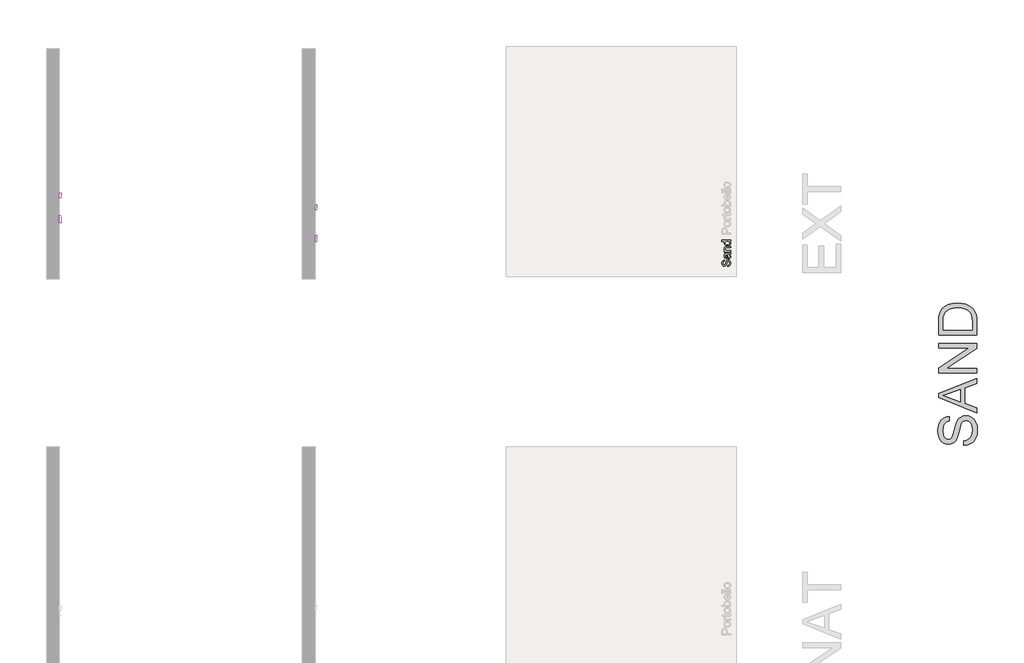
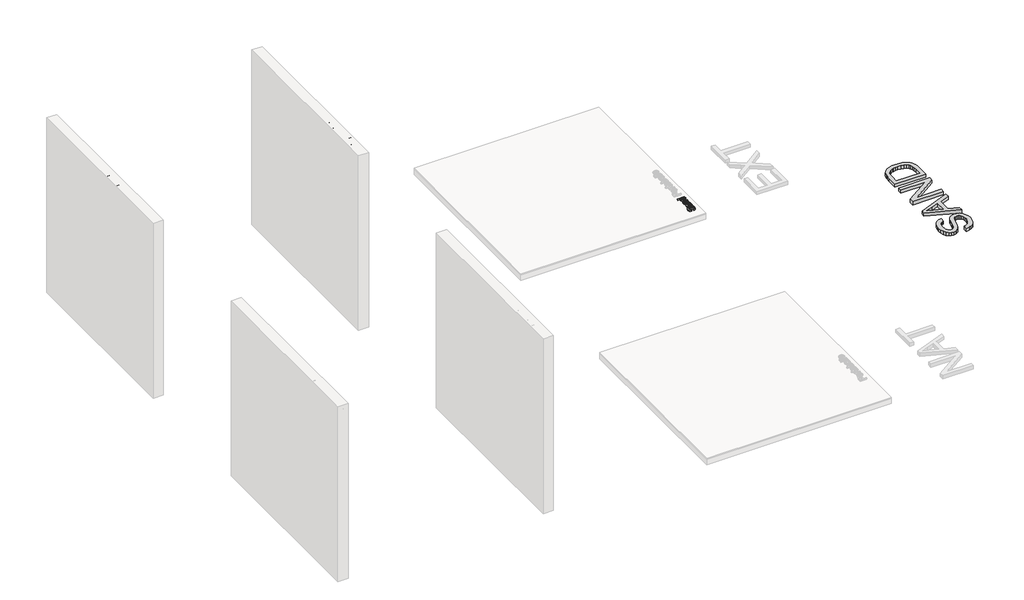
# One storey, part 3 of 12: 6 proxies.
"""IFC4 building model written with IfcOpenShell, lengths in millimetres."""

from ifc_helpers import new_model, si_unit, frame, origin, origin_with_axes, place, context, project, spatial, polyline, outline, extrude, element, save

model = new_model("IFC4")

# Units and contexts
model_context = context("Model", 3, world=origin())
ifc_project = project(units=[si_unit("LENGTHUNIT", "METRE", prefix="MILLI")], contexts=[model_context])

# Site, building, storey
site = spatial("IfcSite", under=ifc_project)
building = spatial("IfcBuilding", under=site)
storey = spatial("IfcBuildingStorey", under=building, Name="PORTOBELLO - SHOWROOM", Elevation=0.0)

# Proxies
placement = place(None, origin())
element("IfcBuildingElementProxy", 1, Name="10mm Arial", ObjectType="10mm Arial", at=placement, inside=storey, context=model_context, shape_type="SweptSolid", body=[
    extrude(outline(polyline([(-4066.8889241, 2526.0529442), (-4066.8889241, 2626.5092544), (-4029.6592661, 2626.5092544), (-4014.6496807, 2625.5527612), (-4002.4482612, 2620.8561344), (-3994.5387983, 2611.1440497), (-3991.5466914, 2597.4465768), (-3993.5669767, 2585.6069079), (-3999.6278326, 2575.7415391), (-4010.9616637, 2569.0828749), (-4028.8008748, 2566.8633202), (-4054.3318853, 2566.8633202), (-4054.3318853, 2526.0529442), (-4066.8889241, 2526.0529442)]), holes=[polyline([(-4054.3318853, 2579.420359), (-4028.0651108, 2579.420359), (-4009.5729092, 2584.0311467), (-4005.471025, 2589.5800334), (-4004.1037302, 2597.0051184), (-4007.328829, 2607.4039161), (-4015.8023777, 2613.0938243), (-4028.3594164, 2613.9522156), (-4054.3318853, 2613.9522156), (-4054.3318853, 2579.420359)])]), frame((37348.7766485, 0.0, 0.0), z_axis=(1.0, 0.0, 0.0), x_axis=(0.0, 1.0, 0.0)), (0.0, 0.0, 1.0), 20.0),
    extrude(outline(polyline([(37368.7766485, -3963.2933542), (37368.7766485, -3975.850393), (37348.7766485, -3975.850393), (37348.7766485, -3963.2933542), (37368.7766485, -3963.2933542)])), frame((0.0, 0.0, 2526.0529442), z_axis=(0.0, 0.0, 1.0), x_axis=(1.0, 0.0, 0.0)), (0.0, 0.0, 1.0), 100.4563101),
    extrude(outline(polyline([(-3897.3689007, 2535.4707233), (-3909.5457947, 2526.9603865), (-3922.998013, 2524.4833144), (-3933.4918469, 2525.9732365), (-3941.2326972, 2530.4430027), (-3946.0059661, 2537.2304255), (-3947.5970557, 2545.6733173), (-3945.19356, 2555.6061312), (-3938.8782525, 2562.8166183), (-3930.0858728, 2566.9368966), (-3919.2210912, 2568.8253576), (-3897.4424771, 2573.1418396), (-3897.3689007, 2575.9377428), (-3900.8269914, 2585.2083691), (-3914.7084054, 2588.8381381), (-3927.4125969, 2586.4223797), (-3933.4703871, 2577.8507292), (-3946.0274259, 2579.420359), (-3940.5950351, 2591.6830922), (-3929.6566771, 2598.8690538), (-3913.0897246, 2601.3951769), (-3897.8716727, 2599.1633594), (-3889.2754968, 2593.5592904), (-3885.4249986, 2585.0366908), (-3884.8118619, 2574.0492819), (-3884.8118619, 2558.4265598), (-3884.1741998, 2536.6111575), (-3881.6726022, 2526.0529442), (-3894.229641, 2526.0529442), (-3897.3689007, 2535.4707233)]), holes=[polyline([(-3897.3689007, 2560.5848009), (-3917.6269359, 2556.7343026), (-3928.4304038, 2554.6986889), (-3933.3232343, 2551.387751), (-3935.040017, 2546.5562341), (-3931.2998834, 2539.7626799), (-3920.3247372, 2537.0403532), (-3907.6205456, 2540.0447228), (-3899.4290398, 2547.3165236), (-3897.4424771, 2557.0286082), (-3897.3689007, 2560.5848009)])]), frame((37348.7766485, 0.0, 0.0), z_axis=(1.0, 0.0, 0.0), x_axis=(0.0, 1.0, 0.0)), (0.0, 0.0, 1.0), 20.0),
    extrude(outline(polyline([(-3840.8622262, 2536.5253184), (-3839.2925964, 2525.6850623), (-3848.68585, 2524.4833144), (-3859.207275, 2526.567979), (-3864.4557248, 2532.037158), (-3865.9763038, 2546.286454), (-3865.9763038, 2587.2685082), (-3875.3940828, 2587.2685082), (-3875.3940828, 2599.825547), (-3865.9763038, 2599.825547), (-3865.9763038, 2617.7536629), (-3853.419265, 2625.1358283), (-3853.419265, 2599.825547), (-3840.8622262, 2599.825547), (-3840.8622262, 2587.2685082), (-3853.419265, 2587.2685082), (-3853.419265, 2546.654336), (-3852.7570774, 2540.1796129), (-3850.6110991, 2537.8864818), (-3846.3314052, 2537.0403532), (-3840.8622262, 2536.5253184)])), frame((37348.7766485, 0.0, 0.0), z_axis=(1.0, 0.0, 0.0), x_axis=(0.0, 1.0, 0.0)), (0.0, 0.0, 1.0), 20.0),
    extrude(outline(polyline([(-3836.1533367, 2526.0529442), (-3836.1533367, 2537.874219), (-3792.8168376, 2587.2685082), (-3805.6436565, 2587.2685082), (-3833.014077, 2587.2685082), (-3833.014077, 2599.825547), (-3774.9377727, 2599.825547), (-3774.9377727, 2589.1569692), (-3813.3691784, 2545.3299608), (-3819.2552904, 2538.609983), (-3804.7362143, 2538.609983), (-3773.3681428, 2538.609983), (-3773.3681428, 2526.0529442), (-3836.1533367, 2526.0529442)])), frame((37348.7766485, 0.0, 0.0), z_axis=(1.0, 0.0, 0.0), x_axis=(0.0, 1.0, 0.0)), (0.0, 0.0, 1.0), 20.0),
    extrude(outline(polyline([(-3724.7096176, 2560.5848009), (-3712.1525788, 2560.5848009), (-3708.1058769, 2548.0154994), (-3698.222114, 2540.0692483), (-3683.1634776, 2537.0403532), (-3670.0423531, 2539.3334843), (-3661.5688045, 2545.6365291), (-3658.7851641, 2554.0610268), (-3660.8698287, 2561.8969133), (-3669.404691, 2567.5990842), (-3687.6884262, 2572.3938129), (-3707.3701129, 2578.5864932), (-3718.0509535, 2587.9306958), (-3721.5703579, 2600.4141582), (-3717.2170876, 2614.626666), (-3704.5006333, 2624.6575817), (-3685.8858044, 2628.0788842), (-3666.0201766, 2624.4981662), (-3652.7764248, 2613.9767411), (-3647.7977551, 2598.2559172), (-3660.3547939, 2598.2559172), (-3662.6601878, 2605.7484471), (-3667.4671792, 2611.1563125), (-3685.3952951, 2615.5218455), (-3703.3724619, 2611.2053634), (-3709.0133191, 2600.7820402), (-3705.0156681, 2592.0754996), (-3684.5123783, 2585.0612163), (-3662.2923058, 2578.7581714), (-3650.1399372, 2568.5801029), (-3646.2281253, 2554.3798579), (-3650.7285484, 2539.3580097), (-3663.6779946, 2528.3951263), (-3682.6729683, 2524.4833144), (-3705.1015073, 2528.7016946), (-3719.2894895, 2541.4058862), (-3724.7096176, 2560.5848009)])), frame((37348.7766485, 0.0, 0.0), z_axis=(1.0, 0.0, 0.0), x_axis=(0.0, 1.0, 0.0)), (0.0, 0.0, 1.0), 20.0),
    extrude(outline(polyline([(-3581.8733016, 2535.4707233), (-3594.0501957, 2526.9603865), (-3607.5024139, 2524.4833144), (-3617.9962479, 2525.9732365), (-3625.7370982, 2530.4430027), (-3630.5103671, 2537.2304255), (-3632.1014567, 2545.6733173), (-3629.697961, 2555.6061312), (-3623.3826534, 2562.8166183), (-3614.5902737, 2566.9368966), (-3603.7254921, 2568.8253576), (-3581.946878, 2573.1418396), (-3581.8733016, 2575.9377428), (-3585.3313924, 2585.2083691), (-3599.2128063, 2588.8381381), (-3611.9169979, 2586.4223797), (-3617.9747881, 2577.8507292), (-3630.5318268, 2579.420359), (-3625.099436, 2591.6830922), (-3614.1610781, 2598.8690538), (-3597.5941255, 2601.3951769), (-3582.3760737, 2599.1633594), (-3573.7798977, 2593.5592904), (-3569.9293995, 2585.0366908), (-3569.3162628, 2574.0492819), (-3569.3162628, 2558.4265598), (-3568.6786007, 2536.6111575), (-3566.1770031, 2526.0529442), (-3578.7340419, 2526.0529442), (-3581.8733016, 2535.4707233)]), holes=[polyline([(-3581.8733016, 2560.5848009), (-3602.1313368, 2556.7343026), (-3612.9348047, 2554.6986889), (-3617.8276353, 2551.387751), (-3619.5444179, 2546.5562341), (-3615.8042843, 2539.7626799), (-3604.8291381, 2537.0403532), (-3592.1249465, 2540.0447228), (-3583.9334408, 2547.3165236), (-3581.946878, 2557.0286082), (-3581.8733016, 2560.5848009)])]), frame((37348.7766485, 0.0, 0.0), z_axis=(1.0, 0.0, 0.0), x_axis=(0.0, 1.0, 0.0)), (0.0, 0.0, 1.0), 20.0),
    extrude(outline(polyline([(-3552.0503345, 2526.0529442), (-3552.0503345, 2599.825547), (-3539.4932958, 2599.825547), (-3539.4932958, 2589.5248511), (-3529.8915757, 2598.4275954), (-3516.7827139, 2601.3951769), (-3504.924651, 2599.0039439), (-3496.8312471, 2592.7254245), (-3493.066588, 2583.4915864), (-3492.4044004, 2571.3514806), (-3492.4044004, 2526.0529442), (-3504.9614392, 2526.0529442), (-3504.9614392, 2569.6592234), (-3506.4084417, 2580.7692597), (-3511.5220014, 2586.6431089), (-3520.1427028, 2588.8381381), (-3533.7665994, 2583.9085194), (-3538.0616217, 2576.7654773), (-3539.4932958, 2565.1955885), (-3539.4932958, 2526.0529442), (-3552.0503345, 2526.0529442)])), frame((37348.7766485, 0.0, 0.0), z_axis=(1.0, 0.0, 0.0), x_axis=(0.0, 1.0, 0.0)), (0.0, 0.0, 1.0), 20.0),
    extrude(outline(polyline([(-3429.6192065, 2526.0529442), (-3429.6192065, 2537.8987445), (-3437.9272083, 2527.8371719), (-3449.4112579, 2524.4833144), (-3464.9604035, 2529.3393567), (-3475.9478125, 2542.8896769), (-3479.8473616, 2562.8656692), (-3476.2543808, 2582.8539243), (-3465.4877011, 2596.6127109), (-3449.4603088, 2601.3951769), (-3437.8842887, 2597.9738743), (-3429.6192065, 2589.0833928), (-3429.6192065, 2626.5092544), (-3417.0621678, 2626.5092544), (-3417.0621678, 2526.0529442), (-3429.6192065, 2526.0529442)]), holes=[polyline([(-3467.2903228, 2562.9147202), (-3465.8739772, 2551.5563636), (-3461.6249401, 2543.4782881), (-3455.450654, 2538.6498369), (-3448.258561, 2537.0403532), (-3441.0695336, 2538.5762605), (-3435.0515973, 2543.1839825), (-3430.9773042, 2550.9493583), (-3429.6192065, 2561.958227), (-3431.0018297, 2573.9940996), (-3435.1496992, 2582.3388895), (-3441.3209197, 2587.2133259), (-3448.7735958, 2588.8381381), (-3456.0392652, 2587.2777053), (-3461.9928221, 2582.5964069), (-3465.9659477, 2574.5551196), (-3467.2903228, 2562.9147202)])]), frame((37348.7766485, 0.0, 0.0), z_axis=(1.0, 0.0, 0.0), x_axis=(0.0, 1.0, 0.0)), (0.0, 0.0, 1.0), 20.0),
])
element("IfcBuildingElementProxy", 2, Name="10mm Arial", ObjectType="10mm Arial", at=placement, inside=storey, context=model_context, shape_type="SweptSolid", body=[
    extrude(outline(polyline([(42185.4198665, -4014.1840479), (42185.4198665, -4001.6270091), (42197.989168, -3997.5803071), (42205.9354191, -3987.6965442), (42208.9643142, -3972.6379079), (42206.6711831, -3959.5167834), (42200.3681382, -3951.0432347), (42191.9436405, -3948.2595943), (42184.107754, -3950.344259), (42178.4055831, -3958.8791212), (42173.6108545, -3977.1628564), (42167.4181742, -3996.8445431), (42158.0739715, -4007.5253837), (42145.5905092, -4011.0447882), (42131.3780014, -4006.6915179), (42121.3470857, -3993.9750636), (42117.9257831, -3975.3602346), (42121.5065012, -3955.4946069), (42132.0279263, -3942.2508551), (42147.7487502, -3937.2721854), (42147.7487502, -3949.8292242), (42140.2562202, -3952.134618), (42134.8483549, -3956.9416094), (42130.4828219, -3974.8697253), (42134.799304, -3992.8468921), (42145.2226272, -3998.4877494), (42153.9291677, -3994.4900984), (42160.9434511, -3973.9868085), (42167.2464959, -3951.766736), (42177.4245645, -3939.6143674), (42191.6248095, -3935.7025555), (42206.6466576, -3940.2029786), (42217.6095411, -3953.1524249), (42221.521353, -3972.1473985), (42217.3029727, -3994.5759375), (42204.5987812, -4008.7639198), (42185.4198665, -4014.1840479)])), frame((0.0, 0.0, 17.0), z_axis=(0.0, 0.0, 1.0), x_axis=(1.0, 0.0, 0.0)), (0.0, 0.0, 1.0), 20.0),
    extrude(outline(polyline([(42210.533944, -3871.3477319), (42219.0442809, -3883.5246259), (42221.521353, -3896.9768442), (42220.0314309, -3907.4706781), (42215.5616646, -3915.2115284), (42208.7742418, -3919.9847973), (42200.33135, -3921.5758869), (42190.3985362, -3919.1723912), (42183.1880491, -3912.8570836), (42179.0677707, -3904.064704), (42177.1793098, -3893.1999224), (42172.8628277, -3871.4213083), (42170.0669246, -3871.3477319), (42160.7962983, -3874.8058226), (42157.1665293, -3888.6872366), (42159.5822877, -3901.3914281), (42168.1539382, -3907.4492183), (42166.5843083, -3920.0062571), (42154.3215752, -3914.5738663), (42147.1356135, -3903.6355083), (42144.6094905, -3887.0685558), (42146.8413079, -3871.8505039), (42152.445377, -3863.254328), (42160.9679765, -3859.4038297), (42171.9553855, -3858.7906931), (42187.5781075, -3858.7906931), (42209.3935098, -3858.153031), (42219.9517231, -3855.6514334), (42219.9517231, -3868.2084722), (42210.533944, -3871.3477319)]), holes=[polyline([(42185.4198665, -3871.3477319), (42189.2703647, -3891.6057671), (42191.3059784, -3902.409235), (42194.6169164, -3907.3020655), (42199.4484332, -3909.0188482), (42206.2419874, -3905.2787145), (42208.9643142, -3894.3035684), (42205.9599446, -3881.5993768), (42198.6881438, -3873.407871), (42188.9760591, -3871.4213083), (42185.4198665, -3871.3477319)])]), frame((0.0, 0.0, 17.0), z_axis=(0.0, 0.0, 1.0), x_axis=(1.0, 0.0, 0.0)), (0.0, 0.0, 1.0), 20.0),
    extrude(outline(polyline([(42219.9517231, -3841.5247648), (42146.1791203, -3841.5247648), (42146.1791203, -3828.967726), (42156.4798162, -3828.967726), (42147.5770719, -3819.3660059), (42144.6094905, -3806.2571442), (42147.0007235, -3794.3990812), (42153.2792429, -3786.3056773), (42162.5130809, -3782.5410182), (42174.6531868, -3781.8788306), (42219.9517231, -3781.8788306), (42219.9517231, -3794.4358694), (42176.3454439, -3794.4358694), (42165.2354077, -3795.8828719), (42159.3615585, -3800.9964316), (42157.1665293, -3809.6171331), (42162.096148, -3823.2410296), (42169.2391901, -3827.5360519), (42180.8090788, -3828.967726), (42219.9517231, -3828.967726), (42219.9517231, -3841.5247648)])), frame((0.0, 0.0, 17.0), z_axis=(0.0, 0.0, 1.0), x_axis=(1.0, 0.0, 0.0)), (0.0, 0.0, 1.0), 20.0),
    extrude(outline(polyline([(42219.9517231, -3719.0936368), (42208.1059229, -3719.0936368), (42218.1674954, -3727.4016385), (42221.521353, -3738.8856881), (42216.6653106, -3754.4348338), (42203.1149905, -3765.4222427), (42183.1389981, -3769.3217919), (42163.1507431, -3765.728811), (42149.3919564, -3754.9621313), (42144.6094905, -3738.9347391), (42148.0307931, -3727.3587189), (42156.9212746, -3719.0936368), (42119.495413, -3719.0936368), (42119.495413, -3706.536598), (42219.9517231, -3706.536598), (42219.9517231, -3719.0936368)]), holes=[polyline([(42183.0899472, -3756.7647531), (42194.4483038, -3755.3484074), (42202.5263793, -3751.0993704), (42207.3548305, -3744.9250842), (42208.9643142, -3737.7329912), (42207.4284069, -3730.5439639), (42202.8206849, -3724.5260276), (42195.0553091, -3720.4517345), (42184.0464404, -3719.0936368), (42172.0105678, -3720.47626), (42163.6657778, -3724.6241294), (42158.7913414, -3730.7953499), (42157.1665293, -3738.248026), (42158.7269621, -3745.5136954), (42163.4082605, -3751.4672524), (42171.4495477, -3755.4403779), (42183.0899472, -3756.7647531)])]), frame((0.0, 0.0, 17.0), z_axis=(0.0, 0.0, 1.0), x_axis=(1.0, 0.0, 0.0)), (0.0, 0.0, 1.0), 20.0),
])
element("IfcBuildingElementProxy", 3, Name="10mm Arial", ObjectType="10mm Arial", at=placement, inside=storey, context=model_context, shape_type="SweptSolid", body=[
    extrude(outline(polyline([(-4065.8034721, 2556.3927199), (-4053.2464333, 2556.3927199), (-4049.1997314, 2543.8234184), (-4039.3159684, 2535.8771673), (-4024.2573321, 2532.8482722), (-4011.1362076, 2535.1414033), (-4002.662659, 2541.4444482), (-3999.8790185, 2549.8689459), (-4001.9636832, 2557.7048324), (-4010.4985455, 2563.4070033), (-4028.7822806, 2568.201732), (-4048.4639674, 2574.3944122), (-4059.144808, 2583.7386149), (-4062.6642124, 2596.2220773), (-4058.3109421, 2610.434585), (-4045.5944878, 2620.4655007), (-4026.9796588, 2623.8868033), (-4007.1140311, 2620.3060852), (-3993.8702793, 2609.7846602), (-3988.8916096, 2594.0638362), (-4001.4486484, 2594.0638362), (-4003.7540422, 2601.5563662), (-4008.5610336, 2606.9642315), (-4026.4891495, 2611.3297645), (-4044.4663164, 2607.0132825), (-4050.1071736, 2596.5899593), (-4046.1095226, 2587.8834187), (-4025.6062327, 2580.8691353), (-4003.3861602, 2574.5660905), (-3991.2337916, 2564.388022), (-3987.3219798, 2550.1877769), (-3991.8224028, 2535.1659288), (-4004.7718491, 2524.2030453), (-4023.7668228, 2520.2912335), (-4046.1953617, 2524.5096137), (-4060.383344, 2537.2138052), (-4065.8034721, 2556.3927199)])), frame((34348.7766485, 0.0, 0.0), z_axis=(1.0, 0.0, 0.0), x_axis=(0.0, 1.0, 0.0)), (0.0, 0.0, 1.0), 20.0),
    extrude(outline(polyline([(-3922.9671561, 2531.2786424), (-3935.1440501, 2522.7683056), (-3948.5962684, 2520.2912335), (-3959.0901023, 2521.7811555), (-3966.8309526, 2526.2509218), (-3971.6042215, 2533.0383446), (-3973.1953112, 2541.4812364), (-3970.7918155, 2551.4140503), (-3964.4765079, 2558.6245374), (-3955.6841282, 2562.7448157), (-3944.8193466, 2564.6332766), (-3923.0407325, 2568.9497587), (-3922.9671561, 2571.7456619), (-3926.4252468, 2581.0162881), (-3940.3066608, 2584.6460572), (-3953.0108524, 2582.2302987), (-3959.0686425, 2573.6586482), (-3971.6256813, 2575.2282781), (-3966.1932905, 2587.4910112), (-3955.2549325, 2594.6769729), (-3938.68798, 2597.2030959), (-3923.4699281, 2594.9712785), (-3914.8737522, 2589.3672094), (-3911.023254, 2580.8446099), (-3910.4101173, 2569.8572009), (-3910.4101173, 2554.2344789), (-3909.7724552, 2532.4190766), (-3907.2708576, 2521.8608633), (-3919.8278964, 2521.8608633), (-3922.9671561, 2531.2786424)]), holes=[polyline([(-3922.9671561, 2556.3927199), (-3943.2251913, 2552.5422217), (-3954.0286592, 2550.506608), (-3958.9214897, 2547.19567), (-3960.6382724, 2542.3641532), (-3956.8981388, 2535.570599), (-3945.9229926, 2532.8482722), (-3933.218801, 2535.8526419), (-3925.0272953, 2543.1244426), (-3923.0407325, 2552.8365273), (-3922.9671561, 2556.3927199)])]), frame((34348.7766485, 0.0, 0.0), z_axis=(1.0, 0.0, 0.0), x_axis=(0.0, 1.0, 0.0)), (0.0, 0.0, 1.0), 20.0),
    extrude(outline(polyline([(-3893.144189, 2521.8608633), (-3893.144189, 2595.6334661), (-3880.5871502, 2595.6334661), (-3880.5871502, 2585.3327702), (-3870.9854302, 2594.2355145), (-3857.8765684, 2597.2030959), (-3846.0185054, 2594.811863), (-3837.9251015, 2588.5333436), (-3834.1604424, 2579.2995055), (-3833.4982549, 2567.1593996), (-3833.4982549, 2521.8608633), (-3846.0552936, 2521.8608633), (-3846.0552936, 2565.4671425), (-3847.5022961, 2576.5771787), (-3852.6158559, 2582.4510279), (-3861.2365573, 2584.6460572), (-3874.8604538, 2579.7164384), (-3879.1554761, 2572.5733963), (-3880.5871502, 2561.0035076), (-3880.5871502, 2521.8608633), (-3893.144189, 2521.8608633)])), frame((34348.7766485, 0.0, 0.0), z_axis=(1.0, 0.0, 0.0), x_axis=(0.0, 1.0, 0.0)), (0.0, 0.0, 1.0), 20.0),
    extrude(outline(polyline([(-3770.713061, 2521.8608633), (-3770.713061, 2533.7066636), (-3779.0210627, 2523.645091), (-3790.5051123, 2520.2912335), (-3806.054258, 2525.1472758), (-3817.0416669, 2538.697596), (-3820.9412161, 2558.6735883), (-3817.3482353, 2578.6618434), (-3806.5815555, 2592.42063), (-3790.5541633, 2597.2030959), (-3778.9781432, 2593.7817934), (-3770.713061, 2584.8913118), (-3770.713061, 2622.3171735), (-3758.1560222, 2622.3171735), (-3758.1560222, 2521.8608633), (-3770.713061, 2521.8608633)]), holes=[polyline([(-3808.3841773, 2558.7226392), (-3806.9678316, 2547.3642826), (-3802.7187946, 2539.2862071), (-3796.5445084, 2534.457756), (-3789.3524154, 2532.8482722), (-3782.1633881, 2534.3841796), (-3776.1454518, 2538.9919015), (-3772.0711587, 2546.7572773), (-3770.713061, 2557.766146), (-3772.0956842, 2569.8020186), (-3776.2435537, 2578.1468086), (-3782.4147741, 2583.021245), (-3789.8674502, 2584.6460572), (-3797.1331196, 2583.0856244), (-3803.0866766, 2578.404326), (-3807.0598021, 2570.3630387), (-3808.3841773, 2558.7226392)])]), frame((34348.7766485, 0.0, 0.0), z_axis=(1.0, 0.0, 0.0), x_axis=(0.0, 1.0, 0.0)), (0.0, 0.0, 1.0), 20.0),
    extrude(outline(polyline([(-3698.5100881, 2521.8608633), (-3698.5100881, 2622.3171735), (-3631.0160047, 2622.3171735), (-3631.0160047, 2609.7601347), (-3685.9530493, 2609.7601347), (-3685.9530493, 2579.9371676), (-3638.8641539, 2579.9371676), (-3638.8641539, 2567.3801288), (-3685.9530493, 2567.3801288), (-3685.9530493, 2521.8608633), (-3698.5100881, 2521.8608633)])), frame((34348.7766485, 0.0, 0.0), z_axis=(1.0, 0.0, 0.0), x_axis=(0.0, 1.0, 0.0)), (0.0, 0.0, 1.0), 20.0),
    extrude(outline(polyline([(34368.7766485, -3602.7626675), (34368.7766485, -3615.3197062), (34348.7766485, -3615.3197062), (34348.7766485, -3602.7626675), (34368.7766485, -3602.7626675)])), frame((0.0, 0.0, 2521.8608633), z_axis=(0.0, 0.0, 1.0), x_axis=(1.0, 0.0, 0.0)), (0.0, 0.0, 1.0), 100.4563101),
    extrude(outline(polyline([(-3536.8382139, 2531.2786424), (-3549.015108, 2522.7683056), (-3562.4673263, 2520.2912335), (-3572.9611602, 2521.7811555), (-3580.7020105, 2526.2509218), (-3585.4752794, 2533.0383446), (-3587.066369, 2541.4812364), (-3584.6628733, 2551.4140503), (-3578.3475657, 2558.6245374), (-3569.555186, 2562.7448157), (-3558.6904045, 2564.6332766), (-3536.9117903, 2568.9497587), (-3536.8382139, 2571.7456619), (-3540.2963047, 2581.0162881), (-3554.1777186, 2584.6460572), (-3566.8819102, 2582.2302987), (-3572.9397004, 2573.6586482), (-3585.4967392, 2575.2282781), (-3580.0643484, 2587.4910112), (-3569.1259904, 2594.6769729), (-3552.5590379, 2597.2030959), (-3537.340986, 2594.9712785), (-3528.74481, 2589.3672094), (-3524.8943118, 2580.8446099), (-3524.2811752, 2569.8572009), (-3524.2811752, 2554.2344789), (-3523.643513, 2532.4190766), (-3521.1419155, 2521.8608633), (-3533.6989542, 2521.8608633), (-3536.8382139, 2531.2786424)]), holes=[polyline([(-3536.8382139, 2556.3927199), (-3557.0962491, 2552.5422217), (-3567.8997171, 2550.506608), (-3572.7925476, 2547.19567), (-3574.5093302, 2542.3641532), (-3570.7691966, 2535.570599), (-3559.7940504, 2532.8482722), (-3547.0898589, 2535.8526419), (-3538.8983531, 2543.1244426), (-3536.9117903, 2552.8365273), (-3536.8382139, 2556.3927199)])]), frame((34348.7766485, 0.0, 0.0), z_axis=(1.0, 0.0, 0.0), x_axis=(0.0, 1.0, 0.0)), (0.0, 0.0, 1.0), 20.0),
    extrude(outline(polyline([(-3507.0152469, 2521.8608633), (-3507.0152469, 2595.6334661), (-3494.4582081, 2595.6334661), (-3494.4582081, 2583.4933602), (-3485.8252439, 2593.4384368), (-3473.5379853, 2597.2030959), (-3460.9564211, 2593.3648604), (-3454.0402396, 2582.6104434), (-3444.2423158, 2593.5549328), (-3431.869218, 2597.2030959), (-3422.4299791, 2595.6855827), (-3415.4494183, 2591.133043), (-3411.1360019, 2583.4228495), (-3409.6981964, 2572.4323749), (-3409.6981964, 2521.8608633), (-3422.2552352, 2521.8608633), (-3422.2552352, 2567.0367723), (-3423.4201948, 2577.5214092), (-3427.638575, 2582.6840198), (-3434.8122739, 2584.6460572), (-3447.1608462, 2579.6183366), (-3450.8488633, 2573.0761684), (-3452.0782023, 2563.5051052), (-3452.0782023, 2521.8608633), (-3464.635241, 2521.8608633), (-3464.635241, 2568.4347239), (-3467.5415088, 2580.5993552), (-3477.0696525, 2584.6460572), (-3486.3648042, 2581.9482559), (-3492.5452217, 2574.0510557), (-3494.4582081, 2559.0659958), (-3494.4582081, 2521.8608633), (-3507.0152469, 2521.8608633)])), frame((34348.7766485, 0.0, 0.0), z_axis=(1.0, 0.0, 0.0), x_axis=(0.0, 1.0, 0.0)), (0.0, 0.0, 1.0), 20.0),
    extrude(outline(polyline([(-3339.2120061, 2543.8356812), (-3326.900222, 2542.2660513), (-3331.3362658, 2532.9892937), (-3338.4149285, 2526.0547181), (-3347.9767947, 2521.7321046), (-3359.8624488, 2520.2912335), (-3374.5961227, 2522.7775026), (-3385.9330195, 2530.2363101), (-3393.1619007, 2542.1832779), (-3395.5715278, 2558.134028), (-3393.1373753, 2574.6212728), (-3385.8349177, 2586.951451), (-3374.651305, 2594.6401847), (-3360.5736873, 2597.2030959), (-3346.9344623, 2594.6463161), (-3336.0359582, 2586.9759765), (-3328.8898505, 2574.6703237), (-3326.5078146, 2558.2076044), (-3326.581391, 2554.8230901), (-3383.014489, 2554.8230901), (-3380.8409196, 2545.4237051), (-3375.7917392, 2538.513655), (-3368.50461, 2534.2646179), (-3359.6171941, 2532.8482722), (-3347.30541, 2535.4724971), (-3339.2120061, 2543.8356812)]), holes=[polyline([(-3383.014489, 2567.3801288), (-3339.0648533, 2567.3801288), (-3344.0925739, 2578.7599452), (-3351.4134256, 2583.1745292), (-3360.6227383, 2584.6460572), (-3376.0860448, 2579.9494303), (-3380.9512842, 2574.4587916), (-3383.014489, 2567.3801288)])]), frame((34348.7766485, 0.0, 0.0), z_axis=(1.0, 0.0, 0.0), x_axis=(0.0, 1.0, 0.0)), (0.0, 0.0, 1.0), 20.0),
    extrude(outline(polyline([(-3318.6596653, 2543.8356812), (-3306.1026266, 2545.405311), (-3300.290091, 2536.0856338), (-3286.9727628, 2532.8482722), (-3274.1704694, 2535.8158537), (-3270.0011401, 2542.7810861), (-3274.1949949, 2548.4219434), (-3287.1199156, 2552.0026614), (-3306.0290502, 2558.1462908), (-3314.2818696, 2565.3199897), (-3317.0900355, 2575.4490073), (-3314.8336926, 2584.8054727), (-3308.6778005, 2591.9546461), (-3300.6947612, 2595.6702543), (-3289.8912933, 2597.2030959), (-3274.6119278, 2594.7382866), (-3264.8998431, 2588.0673597), (-3260.583361, 2576.7979079), (-3273.1403998, 2575.2282781), (-3277.8615521, 2582.1567223), (-3288.9102747, 2584.6460572), (-3300.9277532, 2582.2670869), (-3304.5329967, 2576.7243315), (-3303.0369433, 2573.070037), (-3298.3525792, 2570.2986593), (-3287.5368485, 2567.6253835), (-3269.1059606, 2561.7147461), (-3260.5465728, 2555.0192938), (-3257.4441013, 2544.1054613), (-3261.0861331, 2532.0879828), (-3271.5952954, 2523.3691795), (-3287.1444411, 2520.2912335), (-3299.8057131, 2521.7750242), (-3309.0456825, 2526.2263963), (-3315.2138373, 2533.596299), (-3318.6596653, 2543.8356812)])), frame((34348.7766485, 0.0, 0.0), z_axis=(1.0, 0.0, 0.0), x_axis=(0.0, 1.0, 0.0)), (0.0, 0.0, 1.0), 20.0),
])
element("IfcBuildingElementProxy", 4, Name="10mm Arial Narrow", ObjectType="10mm Arial Narrow", at=placement, inside=storey, context=model_context, shape_type="SweptSolid", body=[
    extrude(outline(polyline([(-3349.7538649, 2526.0529442), (-3349.7538649, 2626.771548), (-3318.4569802, 2626.771548), (-3302.1612787, 2624.8932273), (-3290.6882926, 2615.4127841), (-3286.3986142, 2598.3936753), (-3288.1849226, 2586.3178497), (-3293.5438478, 2576.691456), (-3303.2876366, 2570.3901975), (-3318.2285358, 2568.2897781), (-3340.0069033, 2568.2897781), (-3340.0069033, 2526.0529442), (-3349.7538649, 2526.0529442)]), holes=[polyline([(-3340.0069033, 2579.6612333), (-3317.0355483, 2579.6612333), (-3301.1713529, 2584.1920475), (-3296.1455758, 2597.8606383), (-3298.6203903, 2608.0264147), (-3304.5980191, 2613.8263646), (-3317.2639928, 2615.4000927), (-3340.0069033, 2615.4000927), (-3340.0069033, 2579.6612333)])]), frame((37348.7766485, 0.0, 0.0), z_axis=(1.0, 0.0, 0.0), x_axis=(0.0, 1.0, 0.0)), (0.0, 0.0, 1.0), 20.0),
    extrude(outline(polyline([(-3278.2761461, 2562.6040504), (-3276.3216773, 2579.194826), (-3270.4582706, 2591.1469108), (-3261.5997039, 2598.3714654), (-3250.6597548, 2600.7796503), (-3239.8467192, 2598.3714654), (-3230.9627698, 2591.1469108), (-3225.023215, 2579.3851963), (-3223.0433634, 2563.3655318), (-3224.9883138, 2546.2036452), (-3230.8231649, 2534.0611901), (-3239.6722131, 2526.8366355), (-3250.6597548, 2524.4284506), (-3261.520383, 2526.8429812), (-3270.3948139, 2534.0865728), (-3276.3058131, 2546.0450033), (-3278.2761461, 2562.6040504)]), holes=[polyline([(-3268.5291845, 2562.6294332), (-3267.2251476, 2550.0776818), (-3263.313037, 2541.2064237), (-3257.4718403, 2535.9331651), (-3250.3805449, 2534.1754123), (-3243.6604718, 2535.9490293), (-3237.9683985, 2541.2698805), (-3234.0848434, 2550.1570027), (-3232.7903251, 2562.6294332), (-3234.0943619, 2575.1431105), (-3238.0064725, 2584.0016772), (-3243.8476693, 2589.2749358), (-3250.9389646, 2591.0326886), (-3257.7066304, 2589.2654172), (-3263.3891852, 2583.9636031), (-3267.2441847, 2575.0955179), (-3268.5291845, 2562.6294332)])]), frame((37348.7766485, 0.0, 0.0), z_axis=(1.0, 0.0, 0.0), x_axis=(0.0, 1.0, 0.0)), (0.0, 0.0, 1.0), 20.0),
    extrude(outline(polyline([(-3151.5656446, 2534.1754123), (-3149.941151, 2524.4284506), (-3157.3021377, 2524.4284506), (-3165.576902, 2526.5479071), (-3169.8919632, 2532.347857), (-3171.0595679, 2546.9936822), (-3171.0595679, 2589.408195), (-3179.182036, 2589.408195), (-3179.182036, 2592.6571822), (-3180.8065296, 2587.7837014), (-3188.370578, 2589.408195), (-3194.4497376, 2587.0856768), (-3198.3206013, 2580.6003937), (-3200.3004529, 2565.1930871), (-3200.3004529, 2526.0529442), (-3210.0474146, 2526.0529442), (-3210.0474146, 2599.1551566), (-3200.3004529, 2599.1551566), (-3200.3004529, 2589.4589604), (-3194.0563056, 2598.5459715), (-3187.659862, 2600.7796503), (-3179.182036, 2599.1551566), (-3171.0595679, 2599.1551566), (-3171.0595679, 2615.4000927), (-3161.3126063, 2623.5225608), (-3161.3126063, 2599.1551566), (-3151.5656446, 2599.1551566), (-3151.5656446, 2589.408195), (-3161.3126063, 2589.408195), (-3161.3126063, 2544.7600035), (-3160.4495941, 2536.764449), (-3155.8299404, 2534.1754123), (-3151.5656446, 2534.1754123)])), frame((37348.7766485, 0.0, 0.0), z_axis=(1.0, 0.0, 0.0), x_axis=(0.0, 1.0, 0.0)), (0.0, 0.0, 1.0), 20.0),
    extrude(outline(polyline([(-3145.0676702, 2562.6040504), (-3143.1132013, 2579.194826), (-3137.2497947, 2591.1469108), (-3128.391228, 2598.3714654), (-3117.4512789, 2600.7796503), (-3106.6382433, 2598.3714654), (-3097.7542938, 2591.1469108), (-3091.8147391, 2579.3851963), (-3089.8348875, 2563.3655318), (-3091.7798379, 2546.2036452), (-3097.6146889, 2534.0611901), (-3106.4637371, 2526.8366355), (-3117.4512789, 2524.4284506), (-3128.311907, 2526.8429812), (-3137.1863379, 2534.0865728), (-3143.0973371, 2546.0450033), (-3145.0676702, 2562.6040504)]), holes=[polyline([(-3135.3207086, 2562.6294332), (-3134.0166717, 2550.0776818), (-3130.1045611, 2541.2064237), (-3124.2633644, 2535.9331651), (-3117.172069, 2534.1754123), (-3110.4519958, 2535.9490293), (-3104.7599225, 2541.2698805), (-3100.8763675, 2550.1570027), (-3099.5818492, 2562.6294332), (-3100.885886, 2575.1431105), (-3104.7979966, 2584.0016772), (-3110.6391934, 2589.2749358), (-3117.7304887, 2591.0326886), (-3124.4981545, 2589.2654172), (-3130.1807092, 2583.9636031), (-3134.0357087, 2575.0955179), (-3135.3207086, 2562.6294332)])]), frame((37348.7766485, 0.0, 0.0), z_axis=(1.0, 0.0, 0.0), x_axis=(0.0, 1.0, 0.0)), (0.0, 0.0, 1.0), 20.0),
    extrude(outline(polyline([(-3067.091977, 2526.0529442), (-3076.8389386, 2526.0529442), (-3076.8389386, 2626.771548), (-3067.091977, 2626.771548), (-3067.091977, 2591.3626639), (-3059.6929162, 2598.4444407), (-3050.4916829, 2600.7796503), (-3037.6099562, 2596.5788113), (-3028.3325748, 2583.8493809), (-3024.8551431, 2563.1624701), (-3026.7874021, 2546.7081267), (-3032.5841791, 2534.5053876), (-3040.9573015, 2526.9476849), (-3050.6185965, 2524.4284506), (-3059.9594347, 2527.04287), (-3067.091977, 2534.8099801), (-3067.091977, 2526.0529442)]), holes=[polyline([(-3067.091977, 2563.1624701), (-3065.0105945, 2545.9149169), (-3059.1218052, 2537.1832637), (-3050.6693619, 2534.1754123), (-3044.7266343, 2535.9648935), (-3039.488277, 2541.3333373), (-3034.6021048, 2562.7563467), (-3039.310598, 2584.1920475), (-3044.555301, 2589.3225283), (-3050.8724236, 2591.0326886), (-3056.8500524, 2589.2432074), (-3062.142348, 2583.8747636), (-3067.091977, 2563.1624701)])]), frame((37348.7766485, 0.0, 0.0), z_axis=(1.0, 0.0, 0.0), x_axis=(0.0, 1.0, 0.0)), (0.0, 0.0, 1.0), 20.0),
    extrude(outline(polyline([(-2972.8713477, 2548.7958548), (-2963.124386, 2547.1713612), (-2966.8239164, 2537.2847946), (-2972.6429032, 2530.1649437), (-2980.3465565, 2525.8625739), (-2989.7000861, 2524.4284506), (-3001.2936401, 2526.8429812), (-3010.4377624, 2534.0865728), (-3016.3773171, 2545.892707), (-3018.3571687, 2561.9948653), (-3016.3677986, 2578.661789), (-3010.3996883, 2590.8423183), (-3001.3856525, 2598.2953173), (-2990.2585058, 2600.7796503), (-2979.5755566, 2598.3809839), (-2970.8280393, 2591.1849849), (-2964.9931882, 2579.4454803), (-2963.0482379, 2563.4162973), (-2963.124386, 2560.16731), (-3008.6102071, 2560.16731), (-3002.6071955, 2540.7241522), (-2996.6771593, 2535.8125973), (-2989.5731726, 2534.1754123), (-2979.3947048, 2537.8305229), (-2972.8713477, 2548.7958548)]), holes=[polyline([(-3007.9502565, 2569.9142717), (-2972.8713477, 2569.9142717), (-2977.1356434, 2584.1793562), (-2982.9609759, 2589.3193555), (-2990.1823577, 2591.0326886), (-3002.3914425, 2585.3215783), (-3007.9502565, 2569.9142717)])]), frame((37348.7766485, 0.0, 0.0), z_axis=(1.0, 0.0, 0.0), x_axis=(0.0, 1.0, 0.0)), (0.0, 0.0, 1.0), 20.0),
    extrude(outline(polyline([(37368.7766485, -2940.3814755), (37368.7766485, -2950.1284371), (37348.7766485, -2950.1284371), (37348.7766485, -2940.3814755), (37368.7766485, -2940.3814755)])), frame((0.0, 0.0, 2526.0529442), z_axis=(0.0, 0.0, 1.0), x_axis=(1.0, 0.0, 0.0)), (0.0, 0.0, 1.0), 100.7186038),
    extrude(outline(polyline([(37368.7766485, -2914.3895777), (37368.7766485, -2924.1365394), (37348.7766485, -2924.1365394), (37348.7766485, -2914.3895777), (37368.7766485, -2914.3895777)])), frame((0.0, 0.0, 2526.0529442), z_axis=(0.0, 0.0, 1.0), x_axis=(1.0, 0.0, 0.0)), (0.0, 0.0, 1.0), 100.7186038),
    extrude(outline(polyline([(-2903.0181225, 2562.6040504), (-2901.0636536, 2579.194826), (-2895.200247, 2591.1469108), (-2886.3416803, 2598.3714654), (-2875.4017311, 2600.7796503), (-2864.5886955, 2598.3714654), (-2855.7047461, 2591.1469108), (-2849.7651914, 2579.3851963), (-2847.7853398, 2563.3655318), (-2849.7302901, 2546.2036452), (-2855.5651412, 2534.0611901), (-2864.4141894, 2526.8366355), (-2875.4017311, 2524.4284506), (-2886.2623593, 2526.8429812), (-2895.1367902, 2534.0865728), (-2901.0477894, 2546.0450033), (-2903.0181225, 2562.6040504)]), holes=[polyline([(-2893.2711608, 2562.6294332), (-2891.967124, 2550.0776818), (-2888.0550134, 2541.2064237), (-2882.2138166, 2535.9331651), (-2875.1225213, 2534.1754123), (-2868.4024481, 2535.9490293), (-2862.7103748, 2541.2698805), (-2858.8268198, 2550.1570027), (-2857.5323014, 2562.6294332), (-2858.8363383, 2575.1431105), (-2862.7484489, 2584.0016772), (-2868.5896456, 2589.2749358), (-2875.680941, 2591.0326886), (-2882.4486067, 2589.2654172), (-2888.1311615, 2583.9636031), (-2891.986161, 2575.0955179), (-2893.2711608, 2562.6294332)])]), frame((37348.7766485, 0.0, 0.0), z_axis=(1.0, 0.0, 0.0), x_axis=(0.0, 1.0, 0.0)), (0.0, 0.0, 1.0), 20.0),
])
element("IfcBuildingElementProxy", 5, Name="10mm Arial Narrow", ObjectType="10mm Arial Narrow", at=placement, inside=storey, context=model_context, shape_type="SweptSolid", body=[
    extrude(outline(polyline([(-3208.9595234, 2521.8608633), (-3208.9595234, 2622.5794671), (-3177.6626387, 2622.5794671), (-3161.3669372, 2620.7011463), (-3149.8939511, 2611.2207032), (-3145.6042727, 2594.2015943), (-3147.3905811, 2582.1257688), (-3152.7495063, 2572.499375), (-3162.4932951, 2566.1981166), (-3177.4341943, 2564.0976971), (-3199.2125618, 2564.0976971), (-3199.2125618, 2521.8608633), (-3208.9595234, 2521.8608633)]), holes=[polyline([(-3199.2125618, 2575.4691524), (-3176.2412068, 2575.4691524), (-3160.3770114, 2579.9999666), (-3155.3512343, 2593.6685574), (-3157.8260488, 2603.8343338), (-3163.8036776, 2609.6342836), (-3176.4696512, 2611.2080118), (-3199.2125618, 2611.2080118), (-3199.2125618, 2575.4691524)])]), frame((34348.7766485, 0.0, 0.0), z_axis=(1.0, 0.0, 0.0), x_axis=(0.0, 1.0, 0.0)), (0.0, 0.0, 1.0), 20.0),
    extrude(outline(polyline([(-3137.4818046, 2558.4119695), (-3135.5273357, 2575.0027451), (-3129.6639291, 2586.9548299), (-3120.8053624, 2594.1793845), (-3109.8654133, 2596.5875693), (-3099.0523777, 2594.1793845), (-3090.1684283, 2586.9548299), (-3084.2288735, 2575.1931154), (-3082.2490219, 2559.1734509), (-3084.1939723, 2542.0115643), (-3090.0288233, 2529.8691091), (-3098.8778715, 2522.6445546), (-3109.8654133, 2520.2363697), (-3120.7260414, 2522.6509002), (-3129.6004723, 2529.8944919), (-3135.5114716, 2541.8529224), (-3137.4818046, 2558.4119695)]), holes=[polyline([(-3127.734843, 2558.4373522), (-3126.4308061, 2545.8856008), (-3122.5186955, 2537.0143428), (-3116.6774988, 2531.7410842), (-3109.5862034, 2529.9833314), (-3102.8661303, 2531.7569484), (-3097.1740569, 2537.0777995), (-3093.2905019, 2545.9649218), (-3091.9959836, 2558.4373522), (-3093.3000204, 2570.9510296), (-3097.212131, 2579.8095963), (-3103.0533278, 2585.0828548), (-3110.1446231, 2586.8406077), (-3116.9122889, 2585.0733363), (-3122.5948437, 2579.7715222), (-3126.4498431, 2570.903437), (-3127.734843, 2558.4373522)])]), frame((34348.7766485, 0.0, 0.0), z_axis=(1.0, 0.0, 0.0), x_axis=(0.0, 1.0, 0.0)), (0.0, 0.0, 1.0), 20.0),
    extrude(outline(polyline([(-3010.7713031, 2529.9833314), (-3009.1468095, 2520.2363697), (-3016.5077962, 2520.2363697), (-3024.7825605, 2522.3558262), (-3029.0976216, 2528.155776), (-3030.2652264, 2542.8016012), (-3030.2652264, 2585.2161141), (-3038.3876945, 2585.2161141), (-3038.3876945, 2588.4651013), (-3040.0121881, 2583.5916204), (-3047.5762365, 2585.2161141), (-3053.6553961, 2582.8935958), (-3057.5262598, 2576.4083128), (-3059.5061114, 2561.0010062), (-3059.5061114, 2521.8608633), (-3069.253073, 2521.8608633), (-3069.253073, 2594.9630757), (-3059.5061114, 2594.9630757), (-3059.5061114, 2585.2668795), (-3053.2619641, 2594.3538906), (-3046.8655205, 2596.5875693), (-3038.3876945, 2594.9630757), (-3030.2652264, 2594.9630757), (-3030.2652264, 2611.2080118), (-3020.5182648, 2619.3304798), (-3020.5182648, 2594.9630757), (-3010.7713031, 2594.9630757), (-3010.7713031, 2585.2161141), (-3020.5182648, 2585.2161141), (-3020.5182648, 2540.5679225), (-3019.6552525, 2532.572368), (-3015.0355988, 2529.9833314), (-3010.7713031, 2529.9833314)])), frame((34348.7766485, 0.0, 0.0), z_axis=(1.0, 0.0, 0.0), x_axis=(0.0, 1.0, 0.0)), (0.0, 0.0, 1.0), 20.0),
    extrude(outline(polyline([(-3004.2733287, 2558.4119695), (-3002.3188598, 2575.0027451), (-2996.4554532, 2586.9548299), (-2987.5968865, 2594.1793845), (-2976.6569373, 2596.5875693), (-2965.8439018, 2594.1793845), (-2956.9599523, 2586.9548299), (-2951.0203976, 2575.1931154), (-2949.040546, 2559.1734509), (-2950.9854963, 2542.0115643), (-2956.8203474, 2529.8691091), (-2965.6693956, 2522.6445546), (-2976.6569373, 2520.2363697), (-2987.5175655, 2522.6509002), (-2996.3919964, 2529.8944919), (-3002.3029956, 2541.8529224), (-3004.2733287, 2558.4119695)]), holes=[polyline([(-2994.526367, 2558.4373522), (-2993.2223302, 2545.8856008), (-2989.3102196, 2537.0143428), (-2983.4690228, 2531.7410842), (-2976.3777275, 2529.9833314), (-2969.6576543, 2531.7569484), (-2963.965581, 2537.0777995), (-2960.082026, 2545.9649218), (-2958.7875076, 2558.4373522), (-2960.0915445, 2570.9510296), (-2964.0036551, 2579.8095963), (-2969.8448518, 2585.0828548), (-2976.9361472, 2586.8406077), (-2983.7038129, 2585.0733363), (-2989.3863677, 2579.7715222), (-2993.2413672, 2570.903437), (-2994.526367, 2558.4373522)])]), frame((34348.7766485, 0.0, 0.0), z_axis=(1.0, 0.0, 0.0), x_axis=(0.0, 1.0, 0.0)), (0.0, 0.0, 1.0), 20.0),
    extrude(outline(polyline([(-2926.2976355, 2521.8608633), (-2936.0445971, 2521.8608633), (-2936.0445971, 2622.5794671), (-2926.2976355, 2622.5794671), (-2926.2976355, 2587.1705829), (-2918.8985747, 2594.2523598), (-2909.6973414, 2596.5875693), (-2896.8156147, 2592.3867304), (-2887.5382333, 2579.6573), (-2884.0608016, 2558.9703892), (-2885.9930606, 2542.5160457), (-2891.7898376, 2530.3133066), (-2900.16296, 2522.7556039), (-2909.824255, 2520.2363697), (-2919.1650932, 2522.8507891), (-2926.2976355, 2530.6178992), (-2926.2976355, 2521.8608633)]), holes=[polyline([(-2926.2976355, 2558.9703892), (-2924.216253, 2541.7228359), (-2918.3274637, 2532.9911828), (-2909.8750204, 2529.9833314), (-2903.9322928, 2531.7728126), (-2898.6939355, 2537.1412563), (-2893.8077633, 2558.5642658), (-2898.5162565, 2579.9999666), (-2903.7609595, 2585.1304474), (-2910.0780821, 2586.8406077), (-2916.0557109, 2585.0511264), (-2921.3480065, 2579.6826827), (-2926.2976355, 2558.9703892)])]), frame((34348.7766485, 0.0, 0.0), z_axis=(1.0, 0.0, 0.0), x_axis=(0.0, 1.0, 0.0)), (0.0, 0.0, 1.0), 20.0),
    extrude(outline(polyline([(-2832.0770061, 2544.6037738), (-2822.3300445, 2542.9792802), (-2826.0295749, 2533.0927137), (-2831.8485617, 2525.9728628), (-2839.552215, 2521.670493), (-2848.9057446, 2520.2363697), (-2860.4992986, 2522.6509002), (-2869.6434208, 2529.8944919), (-2875.5829756, 2541.7006261), (-2877.5628272, 2557.8027844), (-2875.5734571, 2574.4697081), (-2869.6053468, 2586.6502373), (-2860.591311, 2594.1032363), (-2849.4641643, 2596.5875693), (-2838.7812151, 2594.188903), (-2830.0336978, 2586.9929039), (-2824.1988467, 2575.2533993), (-2822.2538964, 2559.2242163), (-2822.3300445, 2555.9752291), (-2867.8158655, 2555.9752291), (-2861.812854, 2536.5320712), (-2855.8828178, 2531.6205163), (-2848.7788311, 2529.9833314), (-2838.6003633, 2533.638442), (-2832.0770061, 2544.6037738)]), holes=[polyline([(-2867.155915, 2565.7221907), (-2832.0770061, 2565.7221907), (-2836.3413019, 2579.9872753), (-2842.1666344, 2585.1272746), (-2849.3880162, 2586.8406077), (-2861.5971009, 2581.1294973), (-2867.155915, 2565.7221907)])]), frame((34348.7766485, 0.0, 0.0), z_axis=(1.0, 0.0, 0.0), x_axis=(0.0, 1.0, 0.0)), (0.0, 0.0, 1.0), 20.0),
    extrude(outline(polyline([(34368.7766485, -2799.587134), (34368.7766485, -2809.3340956), (34348.7766485, -2809.3340956), (34348.7766485, -2799.587134), (34368.7766485, -2799.587134)])), frame((0.0, 0.0, 2521.8608633), z_axis=(0.0, 0.0, 1.0), x_axis=(1.0, 0.0, 0.0)), (0.0, 0.0, 1.0), 100.7186038),
    extrude(outline(polyline([(34368.7766485, -2773.5952362), (34368.7766485, -2783.3421979), (34348.7766485, -2783.3421979), (34348.7766485, -2773.5952362), (34368.7766485, -2773.5952362)])), frame((0.0, 0.0, 2521.8608633), z_axis=(0.0, 0.0, 1.0), x_axis=(1.0, 0.0, 0.0)), (0.0, 0.0, 1.0), 100.7186038),
    extrude(outline(polyline([(-2762.223781, 2558.4119695), (-2760.2693121, 2575.0027451), (-2754.4059055, 2586.9548299), (-2745.5473388, 2594.1793845), (-2734.6073896, 2596.5875693), (-2723.794354, 2594.1793845), (-2714.9104046, 2586.9548299), (-2708.9708498, 2575.1931154), (-2706.9909983, 2559.1734509), (-2708.9359486, 2542.0115643), (-2714.7707997, 2529.8691091), (-2723.6198479, 2522.6445546), (-2734.6073896, 2520.2363697), (-2745.4680178, 2522.6509002), (-2754.3424487, 2529.8944919), (-2760.2534479, 2541.8529224), (-2762.223781, 2558.4119695)]), holes=[polyline([(-2752.4768193, 2558.4373522), (-2751.1727824, 2545.8856008), (-2747.2606719, 2537.0143428), (-2741.4194751, 2531.7410842), (-2734.3281798, 2529.9833314), (-2727.6081066, 2531.7569484), (-2721.9160333, 2537.0777995), (-2718.0324783, 2545.9649218), (-2716.7379599, 2558.4373522), (-2718.0419968, 2570.9510296), (-2721.9541074, 2579.8095963), (-2727.7953041, 2585.0828548), (-2734.8865994, 2586.8406077), (-2741.6542652, 2585.0733363), (-2747.33682, 2579.7715222), (-2751.1918195, 2570.903437), (-2752.4768193, 2558.4373522)])]), frame((34348.7766485, 0.0, 0.0), z_axis=(1.0, 0.0, 0.0), x_axis=(0.0, 1.0, 0.0)), (0.0, 0.0, 1.0), 20.0),
])
element("IfcBuildingElementProxy", 6, Name="450mm Arial", ObjectType="450mm Arial", at=placement, inside=storey, context=model_context, shape_type="SweptSolid", body=[
    extrude(outline(polyline([(44953.6577349, -6116.2212593), (44953.6577349, -6060.0142415), (44984.8487875, -6053.5647057), (45009.9196424, -6041.9006517), (45029.8171463, -6023.7047275), (45045.4881459, -5997.659581), (45055.6564565, -5965.8235748), (45059.0458934, -5930.2550714), (45056.4798015, -5898.940517), (45048.7815258, -5871.5231289), (45036.59602, -5849.3065366), (45020.5682376, -5833.5943698), (45002.1664771, -5824.2494041), (44982.8590371, -5821.1344156), (44964.0456041, -5823.4672264), (44947.7845406, -5830.4656588), (44933.9111776, -5844.6820823), (44922.260846, -5868.6688662), (44900.7989866, -5950.5093581), (44886.5962856, -6004.2326185), (44873.0797054, -6038.6072718), (44854.1702155, -6066.587279), (44831.25378, -6086.4161708), (44804.8244059, -6098.2311713), (44775.3761001, -6102.1695049), (44742.456023, -6097.298047), (44711.7589774, -6082.6836735), (44685.7412758, -6058.7106119), (44666.8592307, -6025.76309), (44655.3735681, -5986.2150857), (44651.5450139, -5942.4405772), (44655.5519595, -5895.0159059), (44667.5727964, -5853.5193185), (44687.3605209, -5819.432836), (44714.6681297, -5794.2384793), (44747.794043, -5778.2930314), (44785.0366813, -5771.953275), (44785.0366813, -5828.1602928), (44767.101483, -5831.9202349), (44751.4990955, -5838.47955), (44738.2295188, -5847.8382381), (44727.2927528, -5859.996299), (44718.7436874, -5875.1801529), (44712.637212, -5893.6162194), (44707.7520318, -5940.2449905), (44712.5823224, -5987.971555), (44718.6201856, -6006.2155077), (44727.0731942, -6020.7132407), (44748.3978294, -6039.6501754), (44760.5627516, -6044.3844091), (44773.7294102, -6045.962487), (44795.3284937, -6041.4889792), (44812.7010729, -6028.0684559), (44828.2348484, -5996.3422291), (44844.0979618, -5936.2929346), (44859.1651751, -5874.3225018), (44872.3112501, -5836.83286), (44892.7027609, -5804.7910176), (44917.8696727, -5782.4372012), (44947.5375371, -5769.3048486), (44981.4319058, -5764.9273978), (45016.0810074, -5769.9635246), (45048.6717465, -5785.0719051), (45076.7203658, -5809.6350306), (45097.7431078, -5843.0353923), (45110.8754604, -5883.2009053), (45115.2529112, -5928.0594847), (45110.5323999, -5983.127542), (45096.3708661, -6028.4526836), (45085.7359934, -6047.592024), (45072.7134202, -6064.5563613), (45057.3031465, -6079.3456957), (45039.5051723, -6091.960027), (44999.0514886, -6109.5521649), (44953.6577349, -6116.2212593)])), origin_with_axes(), (0.0, 0.0, 1.0), 50.0),
    extrude(outline(polyline([(45108.227034, -5732.9816122), (44658.5708912, -5553.4924048), (44658.5708912, -5505.6286162), (45108.227034, -5326.1394088), (45108.227034, -5385.5300272), (44967.7094893, -5437.0165338), (44967.7094893, -5622.2142665), (45108.227034, -5673.5909937), (45108.227034, -5732.9816122)]), holes=[polyline([(44911.5024715, -5601.5757521), (44911.5024715, -5457.5452689), (44800.9546844, -5498.0538423), (44714.777909, -5529.5605105), (44791.2941032, -5557.5542401), (44911.5024715, -5601.5757521)])]), origin_with_axes(), (0.0, 0.0, 1.0), 50.0),
    extrude(outline(polyline([(45108.227034, -5266.0901143), (44658.5708912, -5266.0901143), (44658.5708912, -5205.9310405), (45014.8048227, -4971.0032706), (44658.5708912, -4971.0032706), (44658.5708912, -4914.7962527), (45108.227034, -4914.7962527), (45108.227034, -4974.9553265), (44751.8833231, -5209.8830965), (45108.227034, -5209.8830965), (45108.227034, -5266.0901143)])), origin_with_axes(), (0.0, 0.0, 1.0), 50.0),
    extrude(outline(polyline([(45108.227034, -4816.4339715), (44658.5708912, -4816.4339715), (44658.5708912, -4661.3157757), (44660.1901363, -4614.9614529), (44665.0478717, -4581.0670842), (44677.5352707, -4545.2241324), (44697.2132159, -4514.9799265), (44731.4643674, -4483.8849308), (44774.0587482, -4461.7369506), (44824.1730131, -4448.4810963), (44880.9838173, -4444.0624782), (44929.245556, -4447.053965), (44971.716435, -4456.0284254), (45007.8750023, -4469.6959522), (45037.1998063, -4486.7666383), (45060.3495229, -4506.4171387), (45077.9828281, -4527.8241083), (45091.060291, -4552.4009562), (45100.5424808, -4581.5610912), (45106.3058957, -4615.359403), (45108.227034, -4653.8507812), (45108.227034, -4816.4339715)]), holes=[polyline([(45052.0200161, -4760.2269536), (45052.0200161, -4660.7668791), (45049.9890985, -4619.6270745), (45043.8963456, -4588.4222995), (45034.0985402, -4564.8746328), (45020.9524652, -4546.7061534), (44996.6226208, -4527.1791548), (44965.1296751, -4512.5098916), (44926.3364037, -4503.3295949), (44880.1055826, -4500.2694961), (44847.4736763, -4501.7686701), (44818.8487155, -4506.2661921), (44794.2307004, -4513.7620621), (44773.6196308, -4524.2562801), (44742.5520799, -4550.8366008), (44731.6290364, -4566.0719136), (44723.7798142, -4582.6039949), (44717.0283853, -4614.9340081), (44714.777909, -4662.3037897), (44714.777909, -4760.2269536), (45052.0200161, -4760.2269536)])]), origin_with_axes(), (0.0, 0.0, 1.0), 50.0),
])

save(model, "model.ifc")
